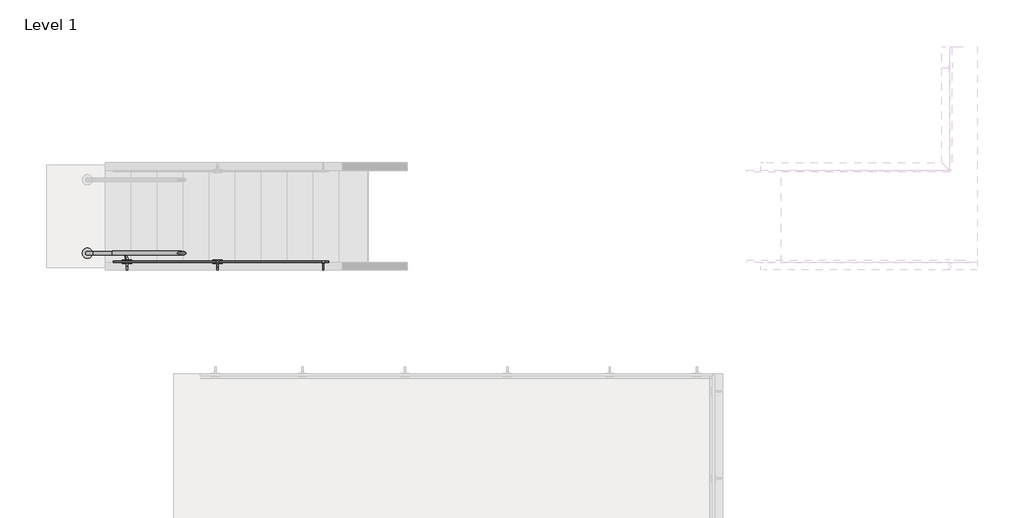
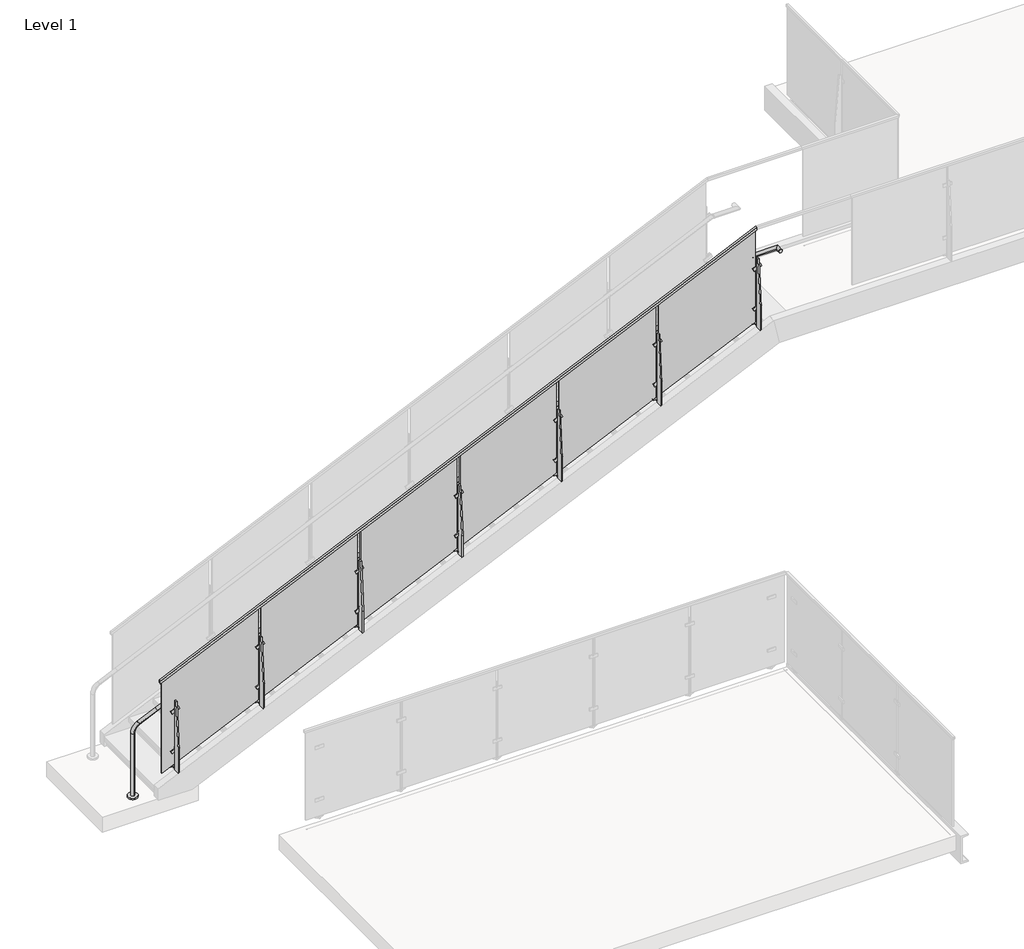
# One storey, part 14 of 37: 1 railing.
"""IFC4 building model written with IfcOpenShell, lengths in millimetres."""

from ifc_helpers import new_model, si_unit, point, frame, frame_2d, origin, place, context, project, spatial, polyline, circle_curve, ellipse_curve, trimmed, segment, composite_curve, outline, extrude, faceted_brep, element, save
from ifc_brep_helpers import plane_surface, cylinder_surface, revolved_surface, advanced_brep

model = new_model("IFC4")

# Units and contexts
model_context = context("Model", 3, world=origin())
ifc_project = project(units=[si_unit("LENGTHUNIT", "METRE", prefix="MILLI")], contexts=[model_context])

# Site, building, storey
site = spatial("IfcSite", under=ifc_project)
building = spatial("IfcBuilding", under=site)
storey = spatial("IfcBuildingStorey", under=building, Name="Level 1", Elevation=0.0)

# Railing
placement = place(None, origin())
element("IfcRailing", 1, ObjectType="VIVA-SOLO-Glass-Top_Weld_Steel-Channel Mount-Stair_Right", at=placement, inside=storey, context=model_context, shape_type="SolidModel", body=[
    advanced_brep(
    [(-7424.494526, 13042.6546645, 3750.91912), (-7424.494526, 13080.7546645, 3750.91912), (-7151.444526, 13080.7546645, 3750.91912), (-7189.544526, 13042.6546645, 3750.91912), (-7189.544526, 12998.2046645, 3750.91912), (-7151.444526, 12998.2046645, 3750.91912)],
    [
        (0, 1, circle_curve(frame((-7424.494526, 13061.7046645, 3750.91912), z_axis=(-1.0, 0.0, 0.0), x_axis=(0.0, 1.0, 0.0)), 19.05)),
        (1, 0, circle_curve(frame((-7424.494526, 13061.7046645, 3750.91912), z_axis=(-1.0, 0.0, 0.0), x_axis=(0.0, 1.0, 0.0)), 19.05)),
        (1, 2),
        (2, 3, ellipse_curve(frame((-7170.494526, 13061.7046645, 3750.91912), z_axis=(-0.7071067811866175, 0.7071067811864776, 0.0), x_axis=(-0.7071067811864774, -0.7071067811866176, 0.0)), 26.9407684, 19.05)),
        (3, 0),
        (3, 2, ellipse_curve(frame((-7170.494526, 13061.7046645, 3750.91912), z_axis=(-0.7071067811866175, 0.7071067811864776, 0.0), x_axis=(-0.7071067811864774, -0.7071067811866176, 0.0)), 26.9407684, 19.05)),
        (4, 5, circle_curve(frame((-7170.494526, 12998.2046645, 3750.91912), z_axis=(0.0, -1.0, 0.0), x_axis=(1.0, 0.0, 0.0)), 19.05)),
        (5, 4, circle_curve(frame((-7170.494526, 12998.2046645, 3750.91912), z_axis=(0.0, -1.0, 0.0), x_axis=(1.0, 0.0, 0.0)), 19.05)),
        (2, 5),
        (4, 3),
    ],
    [
        plane_surface(frame((-7424.494526, 13061.7046645, 3750.91912), z_axis=(-1.0, 0.0, 0.0), x_axis=(0.0, 0.0, 1.0))),
        cylinder_surface(frame((-7424.494526, 13061.7046645, 3750.91912), z_axis=(-1.0, 0.0, 0.0), x_axis=(0.0, 1.0, 0.0)), 19.05),
        plane_surface(frame((-7170.494526, 12998.2046645, 3750.91912), z_axis=(0.0, -1.0, 0.0), x_axis=(0.0, 0.0, 1.0))),
        cylinder_surface(frame((-7170.494526, 13061.7046645, 3750.91912), z_axis=(0.0, 1.0, 0.0), x_axis=(1.0, 0.0, 0.0)), 19.05),
    ],
    [
        (0, [[1, 2]]),
        (1, [[-2, 3, 4, 5]]),
        (1, [[-1, -5, 6, -3]]),
        (2, [[7, 8]]),
        (3, [[-4, 9, -7, 10]]),
        (3, [[-6, -10, -8, -9]]),
    ],
),
    extrude(outline(composite_curve([segment(trimmed(circle_curve(frame_2d((-13976.8960127, 13061.7046645)), 50.8), [point((-13976.8960127, 13112.5046645))], [point((-13976.8960127, 13010.9046645))], False, "CARTESIAN"), True, "CONTINUOUS"), segment(trimmed(circle_curve(frame_2d((-13976.8960127, 13061.7046645)), 50.8), [point((-13976.8960127, 13010.9046645))], [point((-13976.8960127, 13112.5046645))], False, "CARTESIAN"), True, "CONTINUOUS")], self_intersect=False)), frame((0.0, 0.0, -1.27), z_axis=(0.0, 0.0, 1.0), x_axis=(1.0, 0.0, 0.0)), (0.0, 0.0, 1.0), 19.05),
    advanced_brep(
    [(-13976.8960127, 13042.6546645, 17.78), (-13976.8960127, 13080.7546645, 17.78), (-13976.8960127, 13042.6546645, 710.7046838), (-13976.8960127, 13080.7546645, 710.7046838), (-13917.3515938, 13080.7546645, 803.1919159), (-13917.3515938, 13042.6546645, 803.1919159), (-13730.2505912, 13042.6546645, 888.2700527), (-13730.2505912, 13080.7546645, 888.2700527), (-7434.8081841, 13042.6546645, 3750.91912), (-7434.8081841, 13080.7546645, 3750.91912), (-7424.494526, 13042.6546645, 3750.91912), (-7424.494526, 13080.7546645, 3750.91912)],
    [
        (0, 1, circle_curve(frame((-13976.8960127, 13061.7046645, 17.78), z_axis=(0.0, 0.0, -1.0), x_axis=(0.0, 1.0, 0.0)), 19.05)),
        (1, 0, circle_curve(frame((-13976.8960127, 13061.7046645, 17.78), z_axis=(0.0, 0.0, -1.0), x_axis=(0.0, 1.0, 0.0)), 19.05)),
        (0, 2),
        (2, 3, circle_curve(frame((-13976.8960127, 13061.7046645, 710.7046838), z_axis=(0.0, 0.0, -1.0), x_axis=(0.0, 1.0, 0.0)), 19.05)),
        (3, 1),
        (3, 2, circle_curve(frame((-13976.8960127, 13061.7046645, 710.7046838), z_axis=(0.0, 0.0, -1.0), x_axis=(0.0, 1.0, 0.0)), 19.05)),
        (4, 3, circle_curve(frame((-13875.2960127, 13080.7546645, 710.7046838), z_axis=(0.0, -1.0, 0.0), x_axis=(-1.0, 0.0, 0.0)), 101.6)),
        (2, 5, circle_curve(frame((-13875.2960127, 13042.6546645, 710.7046838), z_axis=(0.0, 1.0, 0.0), x_axis=(-1.0, 0.0, 0.0)), 101.6)),
        (5, 4, circle_curve(frame((-13917.3515938, 13061.7046645, 803.1919159), z_axis=(-0.9103074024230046, 0.0, -0.41393288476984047), x_axis=(0.0, 1.0, 0.0)), 19.05)),
        (4, 5, circle_curve(frame((-13917.3515938, 13061.7046645, 803.1919159), z_axis=(-0.9103074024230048, 0.0, -0.41393288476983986), x_axis=(0.0, 1.0, 0.0)), 19.05)),
        (5, 6),
        (6, 7, circle_curve(frame((-13730.2505912, 13061.7046645, 888.2700527), z_axis=(-0.9103074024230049, 0.0, -0.4139328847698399), x_axis=(0.0, 1.0, 0.0)), 19.05)),
        (7, 4),
        (7, 6, circle_curve(frame((-13730.2505912, 13061.7046645, 888.2700527), z_axis=(-0.9103074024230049, 0.0, -0.4139328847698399), x_axis=(0.0, 1.0, 0.0)), 19.05)),
        (6, 8),
        (8, 9, ellipse_curve(frame((-7434.8081841, 13061.7046645, 3750.91912), z_axis=(-0.9773196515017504, 0.0, -0.211769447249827), x_axis=(0.21176944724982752, 0.0, -0.9773196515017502)), 19.4920873, 19.05)),
        (9, 7),
        (9, 8, ellipse_curve(frame((-7434.8081841, 13061.7046645, 3750.91912), z_axis=(-0.9773196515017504, 0.0, -0.211769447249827), x_axis=(0.21176944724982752, 0.0, -0.9773196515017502)), 19.4920873, 19.05)),
        (10, 11, circle_curve(frame((-7424.494526, 13061.7046645, 3750.91912), z_axis=(1.0, 0.0, 0.0), x_axis=(0.0, 1.0, 0.0)), 19.05)),
        (11, 10, circle_curve(frame((-7424.494526, 13061.7046645, 3750.91912), z_axis=(1.0, 0.0, 0.0), x_axis=(0.0, 1.0, 0.0)), 19.05)),
        (8, 10),
        (11, 9),
    ],
    [
        plane_surface(frame((-13995.9460127, 13023.6046645, 17.78), z_axis=(0.0, 0.0, -1.0), x_axis=(1.0, 0.0, 0.0))),
        cylinder_surface(frame((-13976.8960127, 13061.7046645, 17.78), z_axis=(0.0, 0.0, -1.0), x_axis=(0.0, 1.0, 0.0)), 19.05),
        revolved_surface(trimmed(ellipse_curve(frame((-13976.8960127, 13061.7046645, 710.7046838), z_axis=(0.0, 0.0, -1.0), x_axis=(0.0, 1.0, 0.0)), 19.05, 19.05), [point((-13976.8960127, 13042.6546645, 710.7046838))], [point((-13976.8960127, 13080.7546645, 710.7046838))], True, "CARTESIAN"), (-13875.2960127, 13061.7046645, 710.7046838), (0.0, 1.0, 0.0)),
        revolved_surface(trimmed(ellipse_curve(frame((-13976.8960127, 13061.7046645, 710.7046838), z_axis=(0.0, 0.0, -1.0), x_axis=(0.0, 1.0, 0.0)), 19.05, 19.05), [point((-13976.8960127, 13080.7546645, 710.7046838))], [point((-13976.8960127, 13042.6546645, 710.7046838))], True, "CARTESIAN"), (-13875.2960127, 13061.7046645, 710.7046838), (0.0, 1.0, 0.0)),
        cylinder_surface(frame((-13917.3515938, 13061.7046645, 803.1919159), z_axis=(-0.9103074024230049, 0.0, -0.4139328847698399), x_axis=(0.0, 1.0, 0.0)), 19.05),
        cylinder_surface(frame((-13730.2505912, 13061.7046645, 888.2700527), z_axis=(-0.9103074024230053, 0.0, -0.41393288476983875), x_axis=(0.0, 1.0, 0.0)), 19.05),
        plane_surface(frame((-7424.494526, 13061.7046645, 3769.96912), z_axis=(1.0, 0.0, 0.0), x_axis=(0.0, 1.0, 0.0))),
        cylinder_surface(frame((-7438.9360127, 13061.7046645, 3750.91912), z_axis=(-1.0, 0.0, 0.0), x_axis=(0.0, 1.0, 0.0)), 19.05),
    ],
    [
        (0, [[1, 2]]),
        (1, [[-1, 3, 4, 5]]),
        (1, [[-2, -5, 6, -3]]),
        (2, [[7, -4, 8, 9]]),
        (3, [[-8, -6, -7, 10]]),
        (4, [[-9, 11, 12, 13]]),
        (4, [[-10, -13, 14, -11]]),
        (5, [[-12, 15, 16, 17]]),
        (5, [[-14, -17, 18, -15]]),
        (6, [[19, 20]]),
        (7, [[-16, 21, -20, 22]]),
        (7, [[-18, -22, -19, -21]]),
    ],
),
    faceted_brep([(-13738.1360127, 12965.0576645, 1263.7514087), (-13738.1360127, 12987.2826645, 1263.7514087), (-13738.1360127, 12987.2826645, 1235.8487465), (-13738.1360127, 12982.5201645, 1235.8487465), (-13738.1360127, 12982.5201645, 1258.5196596), (-13738.1360127, 12969.8201645, 1258.5196596), (-13738.1360127, 12969.8201645, 1235.8487465), (-13738.1360127, 12965.0576645, 1235.8487465), (-7438.9360127, 12965.0576645, 4128.10912), (-7438.9360127, 12965.0576645, 4100.2064577), (-7438.9360127, 12969.8201645, 4100.2064577), (-7438.9360127, 12969.8201645, 4122.8773708), (-7438.9360127, 12982.5201645, 4122.8773708), (-7438.9360127, 12982.5201645, 4100.2064577), (-7438.9360127, 12987.2826645, 4100.2064577), (-7438.9360127, 12987.2826645, 4128.10912)], [[[0, 1, 2, 3, 4, 5, 6, 7]], [[8, 9, 10, 11, 12, 13, 14, 15]], [[1, 0, 8, 15]], [[2, 1, 15, 14]], [[3, 2, 14, 13]], [[4, 3, 13, 12]], [[5, 4, 12, 11]], [[6, 5, 11, 10]], [[7, 6, 10, 9]], [[0, 7, 9, 8]]]),
    extrude(outline(polyline([(4115.0752337, -7455.4862994), (3653.0820544, -8471.4862994), (2614.6266341, -8471.4862994), (3076.6198134, -7455.4862994), (4115.0752337, -7455.4862994)])), frame((0.0, 12969.7566645, 0.0), z_axis=(0.0, 1.0, 0.0), x_axis=(0.0, 0.0, 1.0)), (0.0, 0.0, 1.0), 12.7),
    extrude(outline(polyline([(-12.7, 0.0), (-12.7, 3.175), (50.8, 65.0875), (61.9125, 65.0875), (61.9125, 34.925), (58.7375, 34.925), (0.0, 3.175), (0.0, 0.0), (-12.7, 0.0)])), frame((-8516.4202842, 13054.1451983, 3251.2925311), z_axis=(0.8987940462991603, 0.0, 0.4383711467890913), x_axis=(0.0, -1.0, 0.0)), (0.0, 0.0, 1.0), 12.7),
    extrude(outline(polyline([(12960.1681645, 3320.5161681), (12960.1681645, 2543.4267478), (12896.6681645, 2543.4267478), (12896.6681645, 2787.1161681), (12934.7681645, 3320.5161681), (12960.1681645, 3320.5161681)])), frame((-8495.1526793, 0.0, 0.0), z_axis=(1.0, 0.0, 0.0), x_axis=(0.0, 1.0, 0.0)), (0.0, 0.0, 1.0), 12.7),
    extrude(outline(polyline([(0.0, -88.9), (0.0, 0.0), (9.525, 0.0), (9.525, -88.9), (0.0, -88.9)])), frame((-8441.8811075, 12970.0076983, 2769.4150091), z_axis=(-0.4383711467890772, 0.0, 0.8987940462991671), x_axis=(0.0, -1.0, 0.0)), (0.0, 0.0, 1.0), 31.75),
    extrude(outline(polyline([(0.0, -88.9), (0.0, 0.0), (9.525, 0.0), (9.525, -88.9), (0.0, -88.9)])), frame((-8441.8811075, 12992.2326983, 3214.3481101), z_axis=(-0.4383711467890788, 0.0, 0.8987940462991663), x_axis=(0.0, -1.0, 0.0)), (0.0, 0.0, 1.0), 31.75),
    extrude(outline(polyline([(0.0, -88.9), (0.0, 0.0), (9.525, 0.0), (9.525, -88.9), (0.0, -88.9)])), frame((-8441.8811075, 12970.0076983, 3214.3481101), z_axis=(-0.4383711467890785, 0.0, 0.8987940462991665), x_axis=(0.0, -1.0, 0.0)), (0.0, 0.0, 1.0), 31.75),
    extrude(outline(polyline([(0.0, -88.9), (0.0, 0.0), (9.525, 0.0), (9.525, -88.9), (0.0, -88.9)])), frame((-8441.8811075, 12992.2326983, 2769.4150091), z_axis=(-0.43837114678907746, 0.0, 0.898794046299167), x_axis=(0.0, -1.0, 0.0)), (0.0, 0.0, 1.0), 31.75),
    extrude(outline(polyline([(2616.6368431, -8453.0297221), (2622.3441853, -8455.8133789), (2583.3729904, -8535.7161696), (2577.6656482, -8532.9325128), (2577.4544898, -8483.3743678), (2616.6368431, -8453.0297221)])), frame((0.0, 12970.0076983, 0.0), z_axis=(0.0, 1.0, 0.0), x_axis=(0.0, 0.0, 1.0)), (0.0, 0.0, 1.0), 12.7),
    extrude(outline(composite_curve([segment(polyline([(0.0, 0.0), (2.8057896, 0.0)]), True, "CONTINUOUS"), segment(trimmed(circle_curve(frame_2d((26.8875078, 8.0765616)), 25.4), [point((2.8057896, 0.0))], [point((8.7901892, -9.7460941))], True, "CARTESIAN"), True, "CONTINUOUS"), segment(polyline([(8.7901892, -9.7460941), (6.4034747, -11.1240644)]), True, "CONTINUOUS"), segment(trimmed(circle_curve(frame_2d((24.5007934, 6.6985914)), 25.4), [point((6.4034747, -11.1240644))], [point((0.0, 0.0))], False, "CARTESIAN"), True, "CONTINUOUS")], self_intersect=False)), frame((-8532.3414017, 13054.0459519, 3240.4793324), z_axis=(0.8987940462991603, 0.0, 0.4383711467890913), x_axis=(-0.3796405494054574, 0.500000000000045, 0.7783784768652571)), (0.0, 0.0, 1.0), 50.8),
    extrude(outline(composite_curve([segment(trimmed(circle_curve(frame_2d((2790.1972083, -8488.7916448)), 6.35), [point((2790.1972083, -8482.4416448))], [point((2790.1972083, -8495.1416448))], False, "CARTESIAN"), True, "CONTINUOUS"), segment(trimmed(circle_curve(frame_2d((2790.1972083, -8488.7916448)), 6.35), [point((2790.1972083, -8495.1416448))], [point((2790.1972083, -8482.4416448))], False, "CARTESIAN"), True, "CONTINUOUS")], self_intersect=False)), frame((0.0, 12970.0076983, 0.0), z_axis=(0.0, 1.0, 0.0), x_axis=(0.0, 0.0, 1.0)), (0.0, 0.0, 1.0), 12.7),
    extrude(outline(composite_curve([segment(trimmed(circle_curve(frame_2d((3208.436318, -8488.7916448)), 6.35), [point((3208.436318, -8482.4416448))], [point((3208.436318, -8495.1416448))], False, "CARTESIAN"), True, "CONTINUOUS"), segment(trimmed(circle_curve(frame_2d((3208.436318, -8488.7916448)), 6.35), [point((3208.436318, -8495.1416448))], [point((3208.436318, -8482.4416448))], False, "CARTESIAN"), True, "CONTINUOUS")], self_intersect=False)), frame((0.0, 12970.0076983, 0.0), z_axis=(0.0, 1.0, 0.0), x_axis=(0.0, 0.0, 1.0)), (0.0, 0.0, 1.0), 12.7),
    extrude(outline(composite_curve([segment(trimmed(circle_curve(frame_2d((2567.312745, -8488.7916448)), 11.1125), [point((2567.312745, -8477.6791448))], [point((2567.312745, -8499.9041448))], False, "CARTESIAN"), True, "CONTINUOUS"), segment(trimmed(circle_curve(frame_2d((2567.312745, -8488.7916448)), 11.1125), [point((2567.312745, -8499.9041448))], [point((2567.312745, -8477.6791448))], False, "CARTESIAN"), True, "CONTINUOUS")], self_intersect=False)), frame((0.0, 12960.4826983, 0.0), z_axis=(0.0, 1.0, 0.0), x_axis=(0.0, 0.0, 1.0)), (0.0, 0.0, 1.0), 25.4),
    extrude(outline(polyline([(3637.6822818, -8505.3529661), (3175.6891026, -9521.3529661), (2137.2336823, -9521.3529661), (2599.2268615, -8505.3529661), (3637.6822818, -8505.3529661)])), frame((0.0, 12969.7566645, 0.0), z_axis=(0.0, 1.0, 0.0), x_axis=(0.0, 0.0, 1.0)), (0.0, 0.0, 1.0), 12.7),
    extrude(outline(polyline([(-12.7, 0.0), (-12.7, 3.175), (50.8, 65.0875), (61.9125, 65.0875), (61.9125, 34.9249999), (58.7375, 34.9249999), (0.0, 3.175), (0.0, 0.0), (-12.7, 0.0)])), frame((-9566.2869509, 13054.1451983, 2773.8995792), z_axis=(0.8987940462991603, 0.0, 0.4383711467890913), x_axis=(0.0, -1.0, 0.0)), (0.0, 0.0, 1.0), 12.7),
    extrude(outline(polyline([(12960.1681645, 2843.1232162), (12960.1681645, 2066.0337959), (12896.6681645, 2066.0337959), (12896.6681645, 2309.7232162), (12934.7681645, 2843.1232162), (12960.1681645, 2843.1232162)])), frame((-9545.019346, 0.0, 0.0), z_axis=(1.0, 0.0, 0.0), x_axis=(0.0, 1.0, 0.0)), (0.0, 0.0, 1.0), 12.7),
    extrude(outline(polyline([(0.0, -88.9), (0.0, 0.0), (9.525, 0.0), (9.525, -88.9), (0.0, -88.9)])), frame((-9491.7477742, 12970.0076983, 2292.0220572), z_axis=(-0.4383711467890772, 0.0, 0.8987940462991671), x_axis=(0.0, -1.0, 0.0)), (0.0, 0.0, 1.0), 31.75),
    extrude(outline(polyline([(0.0, -88.9), (0.0, 0.0), (9.525, 0.0), (9.525, -88.9), (0.0, -88.9)])), frame((-9491.7477742, 12992.2326983, 2736.9551582), z_axis=(-0.4383711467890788, 0.0, 0.8987940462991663), x_axis=(0.0, -1.0, 0.0)), (0.0, 0.0, 1.0), 31.75),
    extrude(outline(polyline([(0.0, -88.9), (0.0, 0.0), (9.525, 0.0), (9.525, -88.9), (0.0, -88.9)])), frame((-9491.7477742, 12970.0076983, 2736.9551582), z_axis=(-0.4383711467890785, 0.0, 0.8987940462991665), x_axis=(0.0, -1.0, 0.0)), (0.0, 0.0, 1.0), 31.75),
    extrude(outline(polyline([(0.0, -88.9), (0.0, 0.0), (9.525, 0.0), (9.525, -88.9), (0.0, -88.9)])), frame((-9491.7477742, 12992.2326983, 2292.0220572), z_axis=(-0.43837114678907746, 0.0, 0.898794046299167), x_axis=(0.0, -1.0, 0.0)), (0.0, 0.0, 1.0), 31.75),
    extrude(outline(polyline([(2139.2438912, -9502.8963888), (2144.9512334, -9505.6800456), (2105.9800385, -9585.5828363), (2100.2726963, -9582.7991795), (2100.061538, -9533.2410344), (2139.2438912, -9502.8963888)])), frame((0.0, 12970.0076983, 0.0), z_axis=(0.0, 1.0, 0.0), x_axis=(0.0, 0.0, 1.0)), (0.0, 0.0, 1.0), 12.7),
    extrude(outline(composite_curve([segment(polyline([(0.0, 0.0), (2.8057896, 0.0)]), True, "CONTINUOUS"), segment(trimmed(circle_curve(frame_2d((26.8875078, 8.0765616)), 25.4), [point((2.8057896, 0.0))], [point((8.7901892, -9.7460941))], True, "CARTESIAN"), True, "CONTINUOUS"), segment(polyline([(8.7901892, -9.7460941), (6.4034746, -11.1240644)]), True, "CONTINUOUS"), segment(trimmed(circle_curve(frame_2d((24.5007933, 6.6985913)), 25.4), [point((6.4034746, -11.1240644))], [point((0.0, 0.0))], False, "CARTESIAN"), True, "CONTINUOUS")], self_intersect=False)), frame((-9582.2080684, 13054.0459519, 2763.0863805), z_axis=(0.8987940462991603, 0.0, 0.4383711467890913), x_axis=(-0.3796405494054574, 0.500000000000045, 0.7783784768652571)), (0.0, 0.0, 1.0), 50.8),
    extrude(outline(composite_curve([segment(trimmed(circle_curve(frame_2d((2312.8042565, -9538.6583115)), 6.35), [point((2312.8042565, -9532.3083115))], [point((2312.8042565, -9545.0083115))], False, "CARTESIAN"), True, "CONTINUOUS"), segment(trimmed(circle_curve(frame_2d((2312.8042565, -9538.6583115)), 6.35), [point((2312.8042565, -9545.0083115))], [point((2312.8042565, -9532.3083115))], False, "CARTESIAN"), True, "CONTINUOUS")], self_intersect=False)), frame((0.0, 12970.0076983, 0.0), z_axis=(0.0, 1.0, 0.0), x_axis=(0.0, 0.0, 1.0)), (0.0, 0.0, 1.0), 12.7),
    extrude(outline(composite_curve([segment(trimmed(circle_curve(frame_2d((2731.0433661, -9538.6583115)), 6.35), [point((2731.0433661, -9532.3083115))], [point((2731.0433661, -9545.0083115))], False, "CARTESIAN"), True, "CONTINUOUS"), segment(trimmed(circle_curve(frame_2d((2731.0433661, -9538.6583115)), 6.35), [point((2731.0433661, -9545.0083115))], [point((2731.0433661, -9532.3083115))], False, "CARTESIAN"), True, "CONTINUOUS")], self_intersect=False)), frame((0.0, 12970.0076983, 0.0), z_axis=(0.0, 1.0, 0.0), x_axis=(0.0, 0.0, 1.0)), (0.0, 0.0, 1.0), 12.7),
    extrude(outline(composite_curve([segment(trimmed(circle_curve(frame_2d((2089.9197931, -9538.6583115)), 11.1125), [point((2089.9197931, -9527.5458115))], [point((2089.9197931, -9549.7708115))], False, "CARTESIAN"), True, "CONTINUOUS"), segment(trimmed(circle_curve(frame_2d((2089.9197931, -9538.6583115)), 11.1125), [point((2089.9197931, -9549.7708115))], [point((2089.9197931, -9527.5458115))], False, "CARTESIAN"), True, "CONTINUOUS")], self_intersect=False)), frame((0.0, 12960.4826983, 0.0), z_axis=(0.0, 1.0, 0.0), x_axis=(0.0, 0.0, 1.0)), (0.0, 0.0, 1.0), 25.4),
    extrude(outline(polyline([(3160.2893299, -9555.2196327), (2698.2961507, -10571.2196327), (1659.8407304, -10571.2196327), (2121.8339096, -9555.2196327), (3160.2893299, -9555.2196327)])), frame((0.0, 12969.7566645, 0.0), z_axis=(0.0, 1.0, 0.0), x_axis=(0.0, 0.0, 1.0)), (0.0, 0.0, 1.0), 12.7),
    extrude(outline(polyline([(-12.7, 0.0), (-12.7, 3.175), (50.8, 65.0875), (61.9125, 65.0875), (61.9125, 34.925), (58.7375, 34.925), (0.0, 3.175), (0.0, 0.0), (-12.7, 0.0)])), frame((-10616.1536175, 13054.1451983, 2296.5066274), z_axis=(0.8987940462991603, 0.0, 0.4383711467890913), x_axis=(0.0, -1.0, 0.0)), (0.0, 0.0, 1.0), 12.7),
    extrude(outline(polyline([(12960.1681645, 2365.7302644), (12960.1681645, 1588.6408441), (12896.6681645, 1588.6408441), (12896.6681645, 1832.3302644), (12934.7681645, 2365.7302644), (12960.1681645, 2365.7302644)])), frame((-10594.8860127, 0.0, 0.0), z_axis=(1.0, 0.0, 0.0), x_axis=(0.0, 1.0, 0.0)), (0.0, 0.0, 1.0), 12.7),
    extrude(outline(polyline([(0.0, -88.9), (0.0, 0.0), (9.525, 0.0), (9.525, -88.9), (0.0, -88.9)])), frame((-10541.6144409, 12970.0076983, 1814.6291054), z_axis=(-0.4383711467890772, 0.0, 0.8987940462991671), x_axis=(0.0, -1.0, 0.0)), (0.0, 0.0, 1.0), 31.75),
    extrude(outline(polyline([(0.0, -88.9), (0.0, 0.0), (9.525, 0.0), (9.525, -88.9), (0.0, -88.9)])), frame((-10541.6144409, 12992.2326983, 2259.5622064), z_axis=(-0.4383711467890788, 0.0, 0.8987940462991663), x_axis=(0.0, -1.0, 0.0)), (0.0, 0.0, 1.0), 31.75),
    extrude(outline(polyline([(0.0, -88.9), (0.0, 0.0), (9.525, 0.0), (9.525, -88.9), (0.0, -88.9)])), frame((-10541.6144409, 12970.0076983, 2259.5622064), z_axis=(-0.4383711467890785, 0.0, 0.8987940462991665), x_axis=(0.0, -1.0, 0.0)), (0.0, 0.0, 1.0), 31.75),
    extrude(outline(polyline([(0.0, -88.9), (0.0, 0.0), (9.525, 0.0), (9.525, -88.9), (0.0, -88.9)])), frame((-10541.6144409, 12992.2326983, 1814.6291054), z_axis=(-0.43837114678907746, 0.0, 0.898794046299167), x_axis=(0.0, -1.0, 0.0)), (0.0, 0.0, 1.0), 31.75),
    extrude(outline(polyline([(1661.8509394, -10552.7630554), (1667.5582815, -10555.5467122), (1628.5870866, -10635.4495029), (1622.8797444, -10632.6658462), (1622.6685861, -10583.1077011), (1661.8509394, -10552.7630554)])), frame((0.0, 12970.0076983, 0.0), z_axis=(0.0, 1.0, 0.0), x_axis=(0.0, 0.0, 1.0)), (0.0, 0.0, 1.0), 12.7),
    extrude(outline(composite_curve([segment(polyline([(0.0, 0.0), (2.8057896, 0.0)]), True, "CONTINUOUS"), segment(trimmed(circle_curve(frame_2d((26.8875079, 8.0765616)), 25.4), [point((2.8057896, 0.0))], [point((8.7901892, -9.7460941))], True, "CARTESIAN"), True, "CONTINUOUS"), segment(polyline([(8.7901892, -9.7460941), (6.4034747, -11.1240644)]), True, "CONTINUOUS"), segment(trimmed(circle_curve(frame_2d((24.5007933, 6.6985913)), 25.4), [point((6.4034747, -11.1240644))], [point((0.0, 0.0))], False, "CARTESIAN"), True, "CONTINUOUS")], self_intersect=False)), frame((-10632.0747351, 13054.0459519, 2285.6934286), z_axis=(0.8987940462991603, 0.0, 0.4383711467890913), x_axis=(-0.3796405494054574, 0.500000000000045, 0.7783784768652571)), (0.0, 0.0, 1.0), 50.8),
    extrude(outline(composite_curve([segment(trimmed(circle_curve(frame_2d((1835.4113046, -10588.5249782)), 6.35), [point((1835.4113046, -10582.1749782))], [point((1835.4113046, -10594.8749782))], False, "CARTESIAN"), True, "CONTINUOUS"), segment(trimmed(circle_curve(frame_2d((1835.4113046, -10588.5249782)), 6.35), [point((1835.4113046, -10594.8749782))], [point((1835.4113046, -10582.1749782))], False, "CARTESIAN"), True, "CONTINUOUS")], self_intersect=False)), frame((0.0, 12970.0076983, 0.0), z_axis=(0.0, 1.0, 0.0), x_axis=(0.0, 0.0, 1.0)), (0.0, 0.0, 1.0), 12.7),
    extrude(outline(composite_curve([segment(trimmed(circle_curve(frame_2d((2253.6504143, -10588.5249782)), 6.35), [point((2253.6504143, -10582.1749782))], [point((2253.6504143, -10594.8749782))], False, "CARTESIAN"), True, "CONTINUOUS"), segment(trimmed(circle_curve(frame_2d((2253.6504143, -10588.5249782)), 6.35), [point((2253.6504143, -10594.8749782))], [point((2253.6504143, -10582.1749782))], False, "CARTESIAN"), True, "CONTINUOUS")], self_intersect=False)), frame((0.0, 12970.0076983, 0.0), z_axis=(0.0, 1.0, 0.0), x_axis=(0.0, 0.0, 1.0)), (0.0, 0.0, 1.0), 12.7),
    extrude(outline(composite_curve([segment(trimmed(circle_curve(frame_2d((1612.5268412, -10588.5249782)), 11.1125), [point((1612.5268412, -10577.4124782))], [point((1612.5268412, -10599.6374782))], False, "CARTESIAN"), True, "CONTINUOUS"), segment(trimmed(circle_curve(frame_2d((1612.5268412, -10588.5249782)), 11.1125), [point((1612.5268412, -10599.6374782))], [point((1612.5268412, -10577.4124782))], False, "CARTESIAN"), True, "CONTINUOUS")], self_intersect=False)), frame((0.0, 12960.4826983, 0.0), z_axis=(0.0, 1.0, 0.0), x_axis=(0.0, 0.0, 1.0)), (0.0, 0.0, 1.0), 25.4),
    extrude(outline(polyline([(2682.896378, -10605.0862994), (2220.9031988, -11621.0862994), (1182.4477785, -11621.0862994), (1644.4409578, -10605.0862994), (2682.896378, -10605.0862994)])), frame((0.0, 12969.7566645, 0.0), z_axis=(0.0, 1.0, 0.0), x_axis=(0.0, 0.0, 1.0)), (0.0, 0.0, 1.0), 12.7),
    extrude(outline(polyline([(-12.7, 0.0), (-12.7, 3.175), (50.8, 65.0875), (61.9125, 65.0875), (61.9125, 34.925), (58.7375, 34.925), (0.0, 3.175), (0.0, 0.0), (-12.7, 0.0)])), frame((-11666.0202842, 13054.1451983, 1819.1136755), z_axis=(0.8987940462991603, 0.0, 0.4383711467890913), x_axis=(0.0, -1.0, 0.0)), (0.0, 0.0, 1.0), 12.7),
    extrude(outline(polyline([(12960.1681645, 1888.3373125), (12960.1681645, 1111.2478922), (12896.6681645, 1111.2478922), (12896.6681645, 1354.9373125), (12934.7681645, 1888.3373125), (12960.1681645, 1888.3373125)])), frame((-11644.7526793, 0.0, 0.0), z_axis=(1.0, 0.0, 0.0), x_axis=(0.0, 1.0, 0.0)), (0.0, 0.0, 1.0), 12.7),
    extrude(outline(polyline([(0.0, -88.9), (0.0, 0.0), (9.525, 0.0), (9.525, -88.9), (0.0, -88.9)])), frame((-11591.4811075, 12970.0076983, 1337.2361535), z_axis=(-0.4383711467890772, 0.0, 0.8987940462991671), x_axis=(0.0, -1.0, 0.0)), (0.0, 0.0, 1.0), 31.75),
    extrude(outline(polyline([(0.0, -88.9), (0.0, 0.0), (9.525, 0.0), (9.525, -88.9), (0.0, -88.9)])), frame((-11591.4811075, 12992.2326983, 1782.1692545), z_axis=(-0.4383711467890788, 0.0, 0.8987940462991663), x_axis=(0.0, -1.0, 0.0)), (0.0, 0.0, 1.0), 31.75),
    extrude(outline(polyline([(0.0, -88.9), (0.0, 0.0), (9.525, 0.0), (9.525, -88.9), (0.0, -88.9)])), frame((-11591.4811075, 12970.0076983, 1782.1692545), z_axis=(-0.4383711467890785, 0.0, 0.8987940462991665), x_axis=(0.0, -1.0, 0.0)), (0.0, 0.0, 1.0), 31.75),
    extrude(outline(polyline([(0.0, -88.9), (0.0, 0.0), (9.525, 0.0), (9.525, -88.9), (0.0, -88.9)])), frame((-11591.4811075, 12992.2326983, 1337.2361535), z_axis=(-0.43837114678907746, 0.0, 0.898794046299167), x_axis=(0.0, -1.0, 0.0)), (0.0, 0.0, 1.0), 31.75),
    extrude(outline(polyline([(1184.4579875, -11602.6297221), (1190.1653297, -11605.4133789), (1151.1941347, -11685.3161696), (1145.4867925, -11682.5325128), (1145.2756342, -11632.9743678), (1184.4579875, -11602.6297221)])), frame((0.0, 12970.0076983, 0.0), z_axis=(0.0, 1.0, 0.0), x_axis=(0.0, 0.0, 1.0)), (0.0, 0.0, 1.0), 12.7),
    extrude(outline(composite_curve([segment(polyline([(0.0, 0.0), (2.8057897, 0.0)]), True, "CONTINUOUS"), segment(trimmed(circle_curve(frame_2d((26.8875079, 8.0765616)), 25.4), [point((2.8057897, 0.0))], [point((8.7901892, -9.7460941))], True, "CARTESIAN"), True, "CONTINUOUS"), segment(polyline([(8.7901892, -9.7460941), (6.4034748, -11.1240644)]), True, "CONTINUOUS"), segment(trimmed(circle_curve(frame_2d((24.5007934, 6.6985914)), 25.4), [point((6.4034748, -11.1240644))], [point((0.0, 0.0))], False, "CARTESIAN"), True, "CONTINUOUS")], self_intersect=False)), frame((-11681.9414017, 13054.0459519, 1808.3004767), z_axis=(0.8987940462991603, 0.0, 0.4383711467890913), x_axis=(-0.3796405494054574, 0.500000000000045, 0.7783784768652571)), (0.0, 0.0, 1.0), 50.8),
    extrude(outline(composite_curve([segment(trimmed(circle_curve(frame_2d((1358.0183527, -11638.3916448)), 6.35), [point((1358.0183527, -11632.0416448))], [point((1358.0183527, -11644.7416448))], False, "CARTESIAN"), True, "CONTINUOUS"), segment(trimmed(circle_curve(frame_2d((1358.0183527, -11638.3916448)), 6.35), [point((1358.0183527, -11644.7416448))], [point((1358.0183527, -11632.0416448))], False, "CARTESIAN"), True, "CONTINUOUS")], self_intersect=False)), frame((0.0, 12970.0076983, 0.0), z_axis=(0.0, 1.0, 0.0), x_axis=(0.0, 0.0, 1.0)), (0.0, 0.0, 1.0), 12.7),
    extrude(outline(composite_curve([segment(trimmed(circle_curve(frame_2d((1776.2574624, -11638.3916448)), 6.35), [point((1776.2574624, -11632.0416448))], [point((1776.2574624, -11644.7416448))], False, "CARTESIAN"), True, "CONTINUOUS"), segment(trimmed(circle_curve(frame_2d((1776.2574624, -11638.3916448)), 6.35), [point((1776.2574624, -11644.7416448))], [point((1776.2574624, -11632.0416448))], False, "CARTESIAN"), True, "CONTINUOUS")], self_intersect=False)), frame((0.0, 12970.0076983, 0.0), z_axis=(0.0, 1.0, 0.0), x_axis=(0.0, 0.0, 1.0)), (0.0, 0.0, 1.0), 12.7),
    extrude(outline(composite_curve([segment(trimmed(circle_curve(frame_2d((1135.1338893, -11638.3916448)), 11.1125), [point((1135.1338893, -11627.2791448))], [point((1135.1338893, -11649.5041448))], False, "CARTESIAN"), True, "CONTINUOUS"), segment(trimmed(circle_curve(frame_2d((1135.1338893, -11638.3916448)), 11.1125), [point((1135.1338893, -11649.5041448))], [point((1135.1338893, -11627.2791448))], False, "CARTESIAN"), True, "CONTINUOUS")], self_intersect=False)), frame((0.0, 12960.4826983, 0.0), z_axis=(0.0, 1.0, 0.0), x_axis=(0.0, 0.0, 1.0)), (0.0, 0.0, 1.0), 25.4),
    extrude(outline(polyline([(2205.5034262, -11654.9529661), (1743.5102469, -12670.9529661), (705.0548266, -12670.9529661), (1167.0480059, -11654.9529661), (2205.5034262, -11654.9529661)])), frame((0.0, 12969.7566645, 0.0), z_axis=(0.0, 1.0, 0.0), x_axis=(0.0, 0.0, 1.0)), (0.0, 0.0, 1.0), 12.7),
    extrude(outline(polyline([(-12.7, 0.0), (-12.7, 3.175), (50.8, 65.0875), (61.9125, 65.0875), (61.9125, 34.925), (58.7375, 34.925), (0.0, 3.175), (0.0, 0.0), (-12.7, 0.0)])), frame((-12715.8869509, 13054.1451983, 1341.7207236), z_axis=(0.8987940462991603, 0.0, 0.4383711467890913), x_axis=(0.0, -1.0, 0.0)), (0.0, 0.0, 1.0), 12.7),
    extrude(outline(polyline([(12960.1681645, 1410.9443606), (12960.1681645, 633.8549403), (12896.6681645, 633.8549403), (12896.6681645, 877.5443606), (12934.7681645, 1410.9443606), (12960.1681645, 1410.9443606)])), frame((-12694.619346, 0.0, 0.0), z_axis=(1.0, 0.0, 0.0), x_axis=(0.0, 1.0, 0.0)), (0.0, 0.0, 1.0), 12.7),
    extrude(outline(polyline([(0.0, -88.9), (0.0, 0.0), (9.525, 0.0), (9.525, -88.9), (0.0, -88.9)])), frame((-12641.3477742, 12970.0076983, 859.8432016), z_axis=(-0.4383711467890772, 0.0, 0.8987940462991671), x_axis=(0.0, -1.0, 0.0)), (0.0, 0.0, 1.0), 31.75),
    extrude(outline(polyline([(0.0, -88.9), (0.0, 0.0), (9.525, 0.0), (9.525, -88.9), (0.0, -88.9)])), frame((-12641.3477742, 12992.2326983, 1304.7763026), z_axis=(-0.4383711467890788, 0.0, 0.8987940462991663), x_axis=(0.0, -1.0, 0.0)), (0.0, 0.0, 1.0), 31.75),
    extrude(outline(polyline([(0.0, -88.9), (0.0, 0.0), (9.525, 0.0), (9.525, -88.9), (0.0, -88.9)])), frame((-12641.3477742, 12970.0076983, 1304.7763026), z_axis=(-0.4383711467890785, 0.0, 0.8987940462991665), x_axis=(0.0, -1.0, 0.0)), (0.0, 0.0, 1.0), 31.75),
    extrude(outline(polyline([(0.0, -88.9), (0.0, 0.0), (9.525, 0.0), (9.525, -88.9), (0.0, -88.9)])), frame((-12641.3477742, 12992.2326983, 859.8432016), z_axis=(-0.43837114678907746, 0.0, 0.898794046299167), x_axis=(0.0, -1.0, 0.0)), (0.0, 0.0, 1.0), 31.75),
    extrude(outline(polyline([(707.0650356, -12652.4963888), (712.7723778, -12655.2800456), (673.8011828, -12735.1828363), (668.0938407, -12732.3991795), (667.8826823, -12682.8410344), (707.0650356, -12652.4963888)])), frame((0.0, 12970.0076983, 0.0), z_axis=(0.0, 1.0, 0.0), x_axis=(0.0, 0.0, 1.0)), (0.0, 0.0, 1.0), 12.7),
    extrude(outline(composite_curve([segment(polyline([(0.0, 0.0), (2.8057896, 0.0)]), True, "CONTINUOUS"), segment(trimmed(circle_curve(frame_2d((26.8875079, 8.0765616)), 25.4), [point((2.8057896, 0.0))], [point((8.7901893, -9.7460941))], True, "CARTESIAN"), True, "CONTINUOUS"), segment(polyline([(8.7901893, -9.7460941), (6.4034747, -11.1240644)]), True, "CONTINUOUS"), segment(trimmed(circle_curve(frame_2d((24.5007934, 6.6985914)), 25.4), [point((6.4034747, -11.1240644))], [point((0.0, 0.0))], False, "CARTESIAN"), True, "CONTINUOUS")], self_intersect=False)), frame((-12731.8080684, 13054.0459519, 1330.9075248), z_axis=(0.8987940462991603, 0.0, 0.4383711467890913), x_axis=(-0.3796405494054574, 0.500000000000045, 0.7783784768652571)), (0.0, 0.0, 1.0), 50.8),
    extrude(outline(composite_curve([segment(trimmed(circle_curve(frame_2d((880.6254008, -12688.2583115)), 6.35), [point((880.6254008, -12681.9083115))], [point((880.6254008, -12694.6083115))], False, "CARTESIAN"), True, "CONTINUOUS"), segment(trimmed(circle_curve(frame_2d((880.6254008, -12688.2583115)), 6.35), [point((880.6254008, -12694.6083115))], [point((880.6254008, -12681.9083115))], False, "CARTESIAN"), True, "CONTINUOUS")], self_intersect=False)), frame((0.0, 12970.0076983, 0.0), z_axis=(0.0, 1.0, 0.0), x_axis=(0.0, 0.0, 1.0)), (0.0, 0.0, 1.0), 12.7),
    extrude(outline(composite_curve([segment(trimmed(circle_curve(frame_2d((1298.8645105, -12688.2583115)), 6.35), [point((1298.8645105, -12681.9083115))], [point((1298.8645105, -12694.6083115))], False, "CARTESIAN"), True, "CONTINUOUS"), segment(trimmed(circle_curve(frame_2d((1298.8645105, -12688.2583115)), 6.35), [point((1298.8645105, -12694.6083115))], [point((1298.8645105, -12681.9083115))], False, "CARTESIAN"), True, "CONTINUOUS")], self_intersect=False)), frame((0.0, 12970.0076983, 0.0), z_axis=(0.0, 1.0, 0.0), x_axis=(0.0, 0.0, 1.0)), (0.0, 0.0, 1.0), 12.7),
    extrude(outline(composite_curve([segment(trimmed(circle_curve(frame_2d((657.7409375, -12688.2583115)), 11.1125), [point((657.7409375, -12677.1458115))], [point((657.7409375, -12699.3708115))], False, "CARTESIAN"), True, "CONTINUOUS"), segment(trimmed(circle_curve(frame_2d((657.7409375, -12688.2583115)), 11.1125), [point((657.7409375, -12699.3708115))], [point((657.7409375, -12677.1458115))], False, "CARTESIAN"), True, "CONTINUOUS")], self_intersect=False)), frame((0.0, 12960.4826983, 0.0), z_axis=(0.0, 1.0, 0.0), x_axis=(0.0, 0.0, 1.0)), (0.0, 0.0, 1.0), 25.4),
    extrude(outline(polyline([(1728.1104743, -12704.8196327), (1266.117295, -13720.8196327), (227.6618748, -13720.8196327), (689.655054, -12704.8196327), (1728.1104743, -12704.8196327)])), frame((0.0, 12969.7566645, 0.0), z_axis=(0.0, 1.0, 0.0), x_axis=(0.0, 0.0, 1.0)), (0.0, 0.0, 1.0), 12.7),
    extrude(outline(polyline([(-12.7, 0.0), (-12.7, 3.175), (50.8, 65.0875), (61.9125, 65.0875), (61.9125, 34.925), (58.7375, 34.925), (0.0, 3.175), (0.0, 0.0), (-12.7, 0.0)])), frame((-7466.5536175, 13054.1451983, 3728.685483), z_axis=(0.8987940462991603, 0.0, 0.4383711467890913), x_axis=(0.0, -1.0, 0.0)), (0.0, 0.0, 1.0), 12.7),
    extrude(outline(polyline([(12960.1681645, 3797.90912), (12960.1681645, 3020.8196997), (12896.6681645, 3020.8196997), (12896.6681645, 3264.50912), (12934.7681645, 3797.90912), (12960.1681645, 3797.90912)])), frame((-7445.2860127, 0.0, 0.0), z_axis=(1.0, 0.0, 0.0), x_axis=(0.0, 1.0, 0.0)), (0.0, 0.0, 1.0), 12.7),
    extrude(outline(polyline([(0.0, -88.9), (0.0, 0.0), (9.525, 0.0), (9.525, -88.9), (0.0, -88.9)])), frame((-7392.0144409, 12970.0076983, 3246.807961), z_axis=(-0.4383711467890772, 0.0, 0.8987940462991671), x_axis=(0.0, -1.0, 0.0)), (0.0, 0.0, 1.0), 31.75),
    extrude(outline(polyline([(0.0, -88.9), (0.0, 0.0), (9.525, 0.0), (9.525, -88.9), (0.0, -88.9)])), frame((-7392.0144409, 12992.2326983, 3691.741062), z_axis=(-0.4383711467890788, 0.0, 0.8987940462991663), x_axis=(0.0, -1.0, 0.0)), (0.0, 0.0, 1.0), 31.75),
    extrude(outline(polyline([(0.0, -88.9), (0.0, 0.0), (9.525, 0.0), (9.525, -88.9), (0.0, -88.9)])), frame((-7392.0144409, 12970.0076983, 3691.741062), z_axis=(-0.4383711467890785, 0.0, 0.8987940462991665), x_axis=(0.0, -1.0, 0.0)), (0.0, 0.0, 1.0), 31.75),
    extrude(outline(polyline([(0.0, -88.9), (0.0, 0.0), (9.525, 0.0), (9.525, -88.9), (0.0, -88.9)])), frame((-7392.0144409, 12992.2326983, 3246.807961), z_axis=(-0.43837114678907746, 0.0, 0.898794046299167), x_axis=(0.0, -1.0, 0.0)), (0.0, 0.0, 1.0), 31.75),
    extrude(outline(polyline([(3094.029795, -7403.1630554), (3099.7371372, -7405.9467122), (3060.7659422, -7485.8495029), (3055.0586, -7483.0658462), (3054.8474417, -7433.5077011), (3094.029795, -7403.1630554)])), frame((0.0, 12970.0076983, 0.0), z_axis=(0.0, 1.0, 0.0), x_axis=(0.0, 0.0, 1.0)), (0.0, 0.0, 1.0), 12.7),
    extrude(outline(composite_curve([segment(polyline([(0.0, 0.0), (2.8057896, 0.0)]), True, "CONTINUOUS"), segment(trimmed(circle_curve(frame_2d((26.8875079, 8.0765616)), 25.4), [point((2.8057896, 0.0))], [point((8.7901892, -9.7460941))], True, "CARTESIAN"), True, "CONTINUOUS"), segment(polyline([(8.7901892, -9.7460941), (6.4034747, -11.1240644)]), True, "CONTINUOUS"), segment(trimmed(circle_curve(frame_2d((24.5007933, 6.6985913)), 25.4), [point((6.4034747, -11.1240644))], [point((0.0, 0.0))], False, "CARTESIAN"), True, "CONTINUOUS")], self_intersect=False)), frame((-7482.4747351, 13054.0459519, 3717.8722842), z_axis=(0.8987940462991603, 0.0, 0.4383711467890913), x_axis=(-0.3796405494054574, 0.500000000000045, 0.7783784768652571)), (0.0, 0.0, 1.0), 50.8),
    extrude(outline(composite_curve([segment(trimmed(circle_curve(frame_2d((3267.5901602, -7438.9249782)), 6.35), [point((3267.5901602, -7432.5749782))], [point((3267.5901602, -7445.2749782))], False, "CARTESIAN"), True, "CONTINUOUS"), segment(trimmed(circle_curve(frame_2d((3267.5901602, -7438.9249782)), 6.35), [point((3267.5901602, -7445.2749782))], [point((3267.5901602, -7432.5749782))], False, "CARTESIAN"), True, "CONTINUOUS")], self_intersect=False)), frame((0.0, 12970.0076983, 0.0), z_axis=(0.0, 1.0, 0.0), x_axis=(0.0, 0.0, 1.0)), (0.0, 0.0, 1.0), 12.7),
    extrude(outline(composite_curve([segment(trimmed(circle_curve(frame_2d((3685.8292699, -7438.9249782)), 6.35), [point((3685.8292699, -7432.5749782))], [point((3685.8292699, -7445.2749782))], False, "CARTESIAN"), True, "CONTINUOUS"), segment(trimmed(circle_curve(frame_2d((3685.8292699, -7438.9249782)), 6.35), [point((3685.8292699, -7445.2749782))], [point((3685.8292699, -7432.5749782))], False, "CARTESIAN"), True, "CONTINUOUS")], self_intersect=False)), frame((0.0, 12970.0076983, 0.0), z_axis=(0.0, 1.0, 0.0), x_axis=(0.0, 0.0, 1.0)), (0.0, 0.0, 1.0), 12.7),
    extrude(outline(composite_curve([segment(trimmed(circle_curve(frame_2d((3044.7056968, -7438.9249782)), 11.1125), [point((3044.7056968, -7427.8124782))], [point((3044.7056968, -7450.0374782))], False, "CARTESIAN"), True, "CONTINUOUS"), segment(trimmed(circle_curve(frame_2d((3044.7056968, -7438.9249782)), 11.1125), [point((3044.7056968, -7450.0374782))], [point((3044.7056968, -7427.8124782))], False, "CARTESIAN"), True, "CONTINUOUS")], self_intersect=False)), frame((0.0, 12960.4826983, 0.0), z_axis=(0.0, 1.0, 0.0), x_axis=(0.0, 0.0, 1.0)), (0.0, 0.0, 1.0), 25.4),
    extrude(outline(polyline([(-12.7, 0.0), (-12.7, 3.175), (50.8, 65.0875), (61.9125, 65.0875), (61.9125, 34.9249999), (58.7375, 34.9249999), (0.0, 3.175), (0.0, 0.0), (-12.7, 0.0)])), frame((-13613.3536175, 13054.1451983, 933.6267486), z_axis=(0.8987940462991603, 0.0, 0.4383711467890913), x_axis=(0.0, -1.0, 0.0)), (0.0, 0.0, 1.0), 12.7),
    extrude(outline(polyline([(12960.1681645, 1002.8503856), (12960.1681645, 225.7609653), (12896.6681645, 225.7609653), (12896.6681645, 469.4503856), (12934.7681645, 1002.8503856), (12960.1681645, 1002.8503856)])), frame((-13592.0860127, 0.0, 0.0), z_axis=(1.0, 0.0, 0.0), x_axis=(0.0, 1.0, 0.0)), (0.0, 0.0, 1.0), 12.7),
    extrude(outline(polyline([(0.0, -88.9), (0.0, 0.0), (9.525, 0.0), (9.525, -88.9), (0.0, -88.9)])), frame((-13538.8144409, 12970.0076983, 451.7492266), z_axis=(-0.4383711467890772, 0.0, 0.8987940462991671), x_axis=(0.0, -1.0, 0.0)), (0.0, 0.0, 1.0), 31.75),
    extrude(outline(polyline([(0.0, -88.9), (0.0, 0.0), (9.525, 0.0), (9.525, -88.9), (0.0, -88.9)])), frame((-13538.8144409, 12992.2326983, 896.6823276), z_axis=(-0.4383711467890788, 0.0, 0.8987940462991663), x_axis=(0.0, -1.0, 0.0)), (0.0, 0.0, 1.0), 31.75),
    extrude(outline(polyline([(0.0, -88.9), (0.0, 0.0), (9.525, 0.0), (9.525, -88.9), (0.0, -88.9)])), frame((-13538.8144409, 12970.0076983, 896.6823276), z_axis=(-0.4383711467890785, 0.0, 0.8987940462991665), x_axis=(0.0, -1.0, 0.0)), (0.0, 0.0, 1.0), 31.75),
    extrude(outline(polyline([(0.0, -88.9), (0.0, 0.0), (9.525, 0.0), (9.525, -88.9), (0.0, -88.9)])), frame((-13538.8144409, 12992.2326983, 451.7492266), z_axis=(-0.43837114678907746, 0.0, 0.898794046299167), x_axis=(0.0, -1.0, 0.0)), (0.0, 0.0, 1.0), 31.75),
    extrude(outline(polyline([(298.9710606, -13549.9630554), (304.6784028, -13552.7467122), (265.7072079, -13632.6495029), (259.9998657, -13629.8658462), (259.7887073, -13580.3077011), (298.9710606, -13549.9630554)])), frame((0.0, 12970.0076983, 0.0), z_axis=(0.0, 1.0, 0.0), x_axis=(0.0, 0.0, 1.0)), (0.0, 0.0, 1.0), 12.7),
    extrude(outline(composite_curve([segment(polyline([(0.0, 0.0), (2.8057896, 0.0)]), True, "CONTINUOUS"), segment(trimmed(circle_curve(frame_2d((26.8875078, 8.0765616)), 25.4), [point((2.8057896, 0.0))], [point((8.7901892, -9.7460941))], True, "CARTESIAN"), True, "CONTINUOUS"), segment(polyline([(8.7901892, -9.7460941), (6.4034746, -11.1240644)]), True, "CONTINUOUS"), segment(trimmed(circle_curve(frame_2d((24.5007933, 6.6985913)), 25.4), [point((6.4034746, -11.1240644))], [point((0.0, 0.0))], False, "CARTESIAN"), True, "CONTINUOUS")], self_intersect=False)), frame((-13629.2747351, 13054.0459519, 922.8135499), z_axis=(0.8987940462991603, 0.0, 0.4383711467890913), x_axis=(-0.3796405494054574, 0.500000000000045, 0.7783784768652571)), (0.0, 0.0, 1.0), 50.8),
    extrude(outline(composite_curve([segment(trimmed(circle_curve(frame_2d((472.5314259, -13585.7249782)), 6.35), [point((472.5314259, -13579.3749782))], [point((472.5314259, -13592.0749782))], False, "CARTESIAN"), True, "CONTINUOUS"), segment(trimmed(circle_curve(frame_2d((472.5314259, -13585.7249782)), 6.35), [point((472.5314259, -13592.0749782))], [point((472.5314259, -13579.3749782))], False, "CARTESIAN"), True, "CONTINUOUS")], self_intersect=False)), frame((0.0, 12970.0076983, 0.0), z_axis=(0.0, 1.0, 0.0), x_axis=(0.0, 0.0, 1.0)), (0.0, 0.0, 1.0), 12.7),
    extrude(outline(composite_curve([segment(trimmed(circle_curve(frame_2d((890.7705355, -13585.7249782)), 6.35), [point((890.7705355, -13579.3749782))], [point((890.7705355, -13592.0749782))], False, "CARTESIAN"), True, "CONTINUOUS"), segment(trimmed(circle_curve(frame_2d((890.7705355, -13585.7249782)), 6.35), [point((890.7705355, -13592.0749782))], [point((890.7705355, -13579.3749782))], False, "CARTESIAN"), True, "CONTINUOUS")], self_intersect=False)), frame((0.0, 12970.0076983, 0.0), z_axis=(0.0, 1.0, 0.0), x_axis=(0.0, 0.0, 1.0)), (0.0, 0.0, 1.0), 12.7),
    extrude(outline(composite_curve([segment(trimmed(circle_curve(frame_2d((249.6469625, -13585.7249782)), 11.1125), [point((249.6469625, -13574.6124782))], [point((249.6469625, -13596.8374782))], False, "CARTESIAN"), True, "CONTINUOUS"), segment(trimmed(circle_curve(frame_2d((249.6469625, -13585.7249782)), 11.1125), [point((249.6469625, -13596.8374782))], [point((249.6469625, -13574.6124782))], False, "CARTESIAN"), True, "CONTINUOUS")], self_intersect=False)), frame((0.0, 12960.4826983, 0.0), z_axis=(0.0, 1.0, 0.0), x_axis=(0.0, 0.0, 1.0)), (0.0, 0.0, 1.0), 25.4),
])

save(model, "model.ifc")
